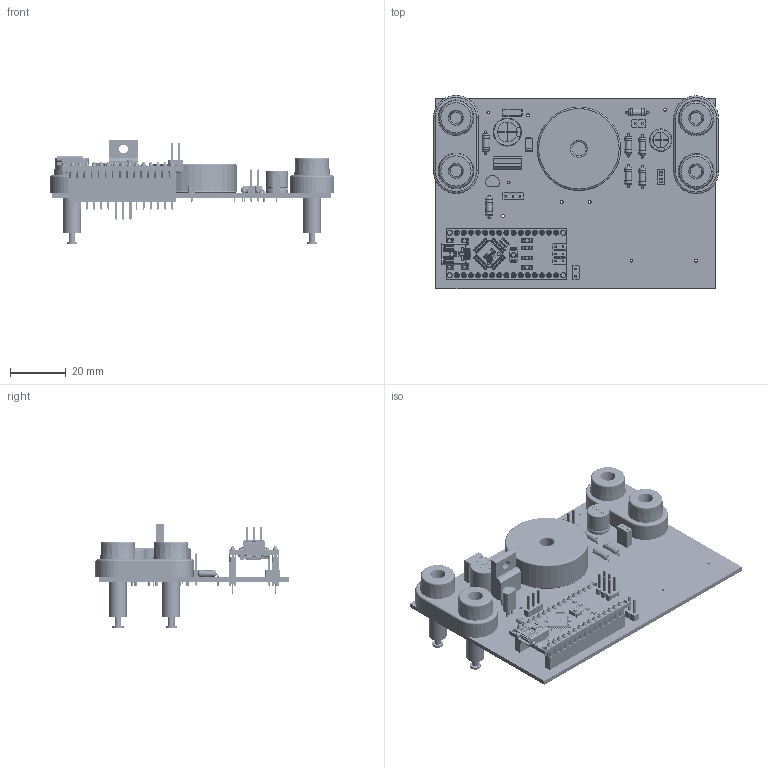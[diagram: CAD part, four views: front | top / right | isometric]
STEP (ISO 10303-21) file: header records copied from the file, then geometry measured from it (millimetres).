
FILE_DESCRIPTION(('KiCad electronic assembly'),'2;1');
FILE_NAME('Arduino DC-DC Converter Control Board.step', '2021-02-23T14:43:13',('An Author'),('A Company'), 'Open CASCADE STEP processor 7.4','KiCad to STEP converter','Unknown' );
FILE_SCHEMA(('AUTOMOTIVE_DESIGN { 1 0 10303 214 1 1 1 1 }'));
Length unit declared in the file: millimetre
Products named in the file (28): Open CASCADE STEP translator 7.4 1; PinSocket_1x02_P2.54mm_Vertical; SOLID; D_SMA; CP_Radial_D8.0mm_P5.00mm; Banana_Jack_2Pin; Arduino_Nano_pbs_simplified; COMPOUND; CP_Radial_D10.0mm_P7.50mm; R_Axial_DIN0207_L6.3mm_D2.5mm_P7.62mm_Horizontal; PinHeader_1x03_P2.54mm_Vertical; C_Rect_L7.2mm_W2.5mm_P5.00mm_FKS2_FKP2_MKS2_MKP2; TO-92L_Inline; TO-220F-3_Vertical; L_Radial_D29.8mm_P28.30mm_muRATA_1400series; PinHeader_1x02_P2.54mm_Vertical
Assembly tree (35 placements, depth 3):
  Open CASCADE STEP translator 7.4 1
    PinSocket_1x02_P2.54mm_Vertical
      SOLID
    D_SMA
      SOLID
    CP_Radial_D8.0mm_P5.00mm
      SOLID
    Banana_Jack_2Pin  x2
      SOLID
    Arduino_Nano_pbs_simplified
      COMPOUND
    CP_Radial_D10.0mm_P7.50mm
      SOLID
    R_Axial_DIN0207_L6.3mm_D2.5mm_P7.62mm_Horizontal  x7
      SOLID
    PinHeader_1x03_P2.54mm_Vertical
      SOLID
    C_Rect_L7.2mm_W2.5mm_P5.00mm_FKS2_FKP2_MKS2_MKP2
      SOLID
    TO-92L_Inline
      SOLID
    TO-220F-3_Vertical
      SOLID
    L_Radial_D29.8mm_P28.30mm_muRATA_1400series
      SOLID
    PinHeader_1x02_P2.54mm_Vertical  x2
      SOLID
    COMPOUND
Bounding box: 101.93 x 69.13 x 37.39 mm (x, y, z)
Volume: 33816.7 mm3; surface area: 36169.4 mm2
Topology: 91 solids, 93 shells, 8445 faces, 21877 edges, 13957 vertices
Faces by surface type: plane 5579, cylinder 1642, torus 582, bspline 512, sphere 62, revolution 50, cone 18
Full cylindrical faces by diameter (mm): 0.5 x10, 0.6 x14, 0.7 x2, 0.75 x3, 0.8 x24, 0.9 x30, 1 x56, 1.02 x1, 1.2 x4, 1.8 x5, 2 x1, 2.25 x7, 2.5 x14, 3.18 x1, 5.1 x1, 6.1 x4, 29.8 x1
Entity records: 624350 total; most frequent: CARTESIAN_POINT 195996, DIRECTION 76489, LINE 51642, VECTOR 51642, ORIENTED_EDGE 42910, PCURVE 42910, DEFINITIONAL_REPRESENTATION 42910, EDGE_CURVE 21455
